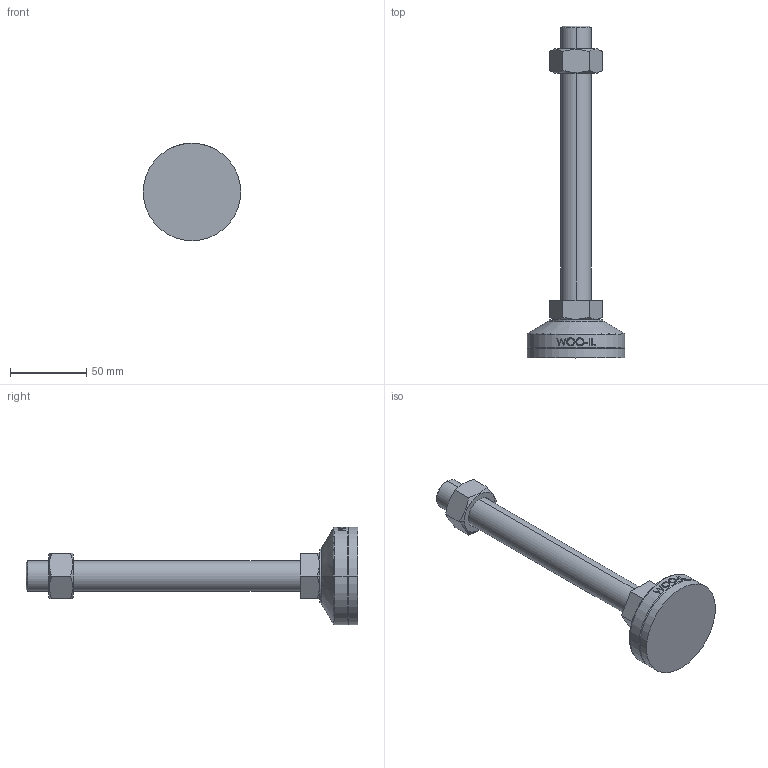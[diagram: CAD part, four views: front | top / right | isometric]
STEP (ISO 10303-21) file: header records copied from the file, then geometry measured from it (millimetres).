
FILE_DESCRIPTION (( 'STEP AP214' ), '1' );
FILE_NAME ('MFR64-M20-180.step', '2021-01-13T05:38:42', ( '' ), ( '' ), 'SwSTEP 2.0', 'SolidWorks 2019', '' );
FILE_SCHEMA (( 'AUTOMOTIVE_DESIGN' ));
Length unit declared in the file: millimetre
Products named in the file (2): MFR64-M20-180
Bounding box: 64 x 218 x 64 mm (x, y, z)
Volume: 142648.2 mm3; surface area: 27961.4 mm2
Topology: 3 solids, 3 shells, 102 faces, 235 edges, 150 vertices
Faces by surface type: plane 48, cylinder 18, bspline 16, cone 14, torus 6
Entity records: 4386 total; most frequent: CARTESIAN_POINT 2131, ORIENTED_EDGE 470, DIRECTION 415, EDGE_CURVE 235, AXIS2_PLACEMENT_3D 158, VERTEX_POINT 150, EDGE_LOOP 115, FACE_OUTER_BOUND 102
